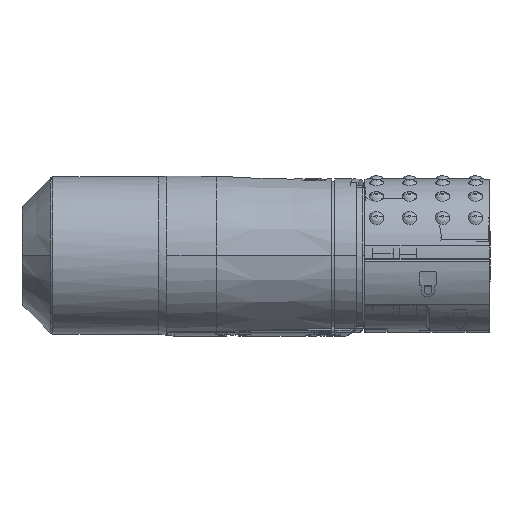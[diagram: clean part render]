
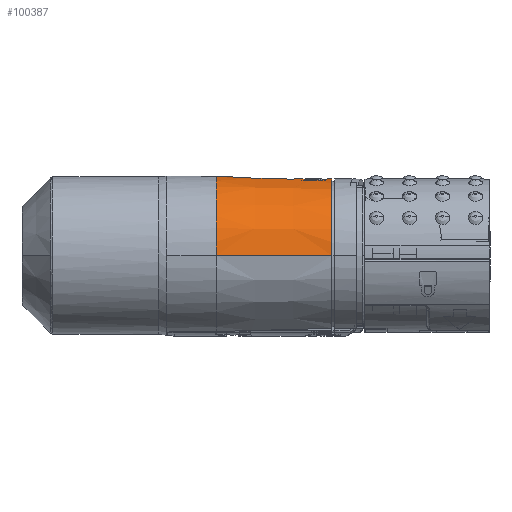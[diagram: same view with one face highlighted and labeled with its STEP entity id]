
A CAD part, top view. The second image highlights one B-rep face of the part: STEP entity #100387.
In plain terms, the highlighted conical face has half-angle 1.457 degrees and reference radius 10.86 mm.
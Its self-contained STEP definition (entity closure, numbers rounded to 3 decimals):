
#1828 = VECTOR ( 'NONE', #51550, 1000. ) ;
#2836 = CARTESIAN_POINT ( 'NONE',  ( 31.079, 10.457, 25.085 ) ) ;
#2971 = CARTESIAN_POINT ( 'NONE',  ( 30.504, 10.383, 22.933 ) ) ;
#3936 = CARTESIAN_POINT ( 'NONE',  ( 28.917, 10.34, 26.439 ) ) ;
#5432 = CIRCLE ( 'NONE', #57904, 10.86 ) ;
#6077 = CARTESIAN_POINT ( 'NONE',  ( 30.401, 10.373, 26.031 ) ) ;
#7933 = CARTESIAN_POINT ( 'NONE',  ( 27.583, 10.495, 23.21 ) ) ;
#8087 = DIRECTION ( 'NONE',  ( -1., 0., 0. ) ) ;
#8099 = CARTESIAN_POINT ( 'NONE',  ( 16., 0., 35.299 ) ) ;
#8695 = ORIENTED_EDGE ( 'NONE', *, *, #8720, .T. ) ;
#8720 = EDGE_CURVE ( 'NONE', #22382, #43309, #46329, .T. ) ;
#8937 = DIRECTION ( 'NONE',  ( -1., 0., 0. ) ) ;
#10113 = CARTESIAN_POINT ( 'NONE',  ( 27.962, 10.436, 22.849 ) ) ;
#13222 = CARTESIAN_POINT ( 'NONE',  ( 27.96, 10.436, 26.028 ) ) ;
#13771 = CARTESIAN_POINT ( 'NONE',  ( 28.293, 10.393, 26.236 ) ) ;
#18337 = CARTESIAN_POINT ( 'NONE',  ( 29.699, 10.332, 22.503 ) ) ;
#19297 = CARTESIAN_POINT ( 'NONE',  ( 31.182, 10.474, 24.439 ) ) ;
#19303 = VECTOR ( 'NONE', #87938, 1000. ) ;
#19437 = CARTESIAN_POINT ( 'NONE',  ( 31.169, 10.472, 24.178 ) ) ;
#20370 = CARTESIAN_POINT ( 'NONE',  ( 27.385, 10.534, 25.328 ) ) ;
#21112 = EDGE_CURVE ( 'NONE', #107816, #104990, #5432, .T. ) ;
#21567 = LINE ( 'NONE', #62672, #19303 ) ;
#21986 = CARTESIAN_POINT ( 'NONE',  ( 27.447, 10.522, 25.442 ) ) ;
#22382 = VERTEX_POINT ( 'NONE', #64732 ) ;
#23771 = EDGE_CURVE ( 'NONE', #43309, #22382, #107699, .T. ) ;
#26544 = VERTEX_POINT ( 'NONE', #50882 ) ;
#27623 = CARTESIAN_POINT ( 'NONE',  ( 29.826, 10.336, 22.542 ) ) ;
#28560 = EDGE_CURVE ( 'NONE', #26544, #80340, #58946, .T. ) ;
#32085 = CARTESIAN_POINT ( 'NONE',  ( 27.182, 10.576, 24.308 ) ) ;
#33324 = DIRECTION ( 'NONE',  ( 0., 0., -1. ) ) ;
#33617 = DIRECTION ( 'NONE',  ( 0., 0., -1. ) ) ;
#33923 = ORIENTED_EDGE ( 'NONE', *, *, #78736, .T. ) ;
#35335 = CARTESIAN_POINT ( 'NONE',  ( 29.442, 10.329, 22.452 ) ) ;
#35864 = CARTESIAN_POINT ( 'NONE',  ( 28.178, 10.407, 22.704 ) ) ;
#38448 = CARTESIAN_POINT ( 'NONE',  ( 27.675, 10.481, 25.761 ) ) ;
#38971 = CARTESIAN_POINT ( 'NONE',  ( 27.859, 10.451, 25.946 ) ) ;
#42986 = CARTESIAN_POINT ( 'NONE',  ( 30.929, 10.435, 23.432 ) ) ;
#43309 = VERTEX_POINT ( 'NONE', #82379 ) ;
#43425 = FACE_BOUND ( 'NONE', #82947, .T. ) ;
#43531 = CARTESIAN_POINT ( 'NONE',  ( 28.656, 10.357, 22.492 ) ) ;
#44483 = CARTESIAN_POINT ( 'NONE',  ( 31.169, 10.472, 24.703 ) ) ;
#44618 = CARTESIAN_POINT ( 'NONE',  ( 27.86, 10.451, 22.933 ) ) ;
#45060 = CARTESIAN_POINT ( 'NONE',  ( 16., 0., 13.579 ) ) ;
#45180 = CARTESIAN_POINT ( 'NONE',  ( 31.118, 10.464, 23.921 ) ) ;
#46128 = CARTESIAN_POINT ( 'NONE',  ( 30.78, 10.413, 25.67 ) ) ;
#46329 = B_SPLINE_CURVE_WITH_KNOTS ( 'NONE', 3,
 ( #19297, #52766, #44483, #77941, #2836, #79046, #46128, #105938, #6077, #80105, #97170, #103829, #88369, #88911, #54915, #3936, #64157, #13771, #87848, #13222, #38971, #38448, #97709, #21986, #20370, #55451, #87286, #70790 ),
 .UNSPECIFIED., .F., .F.,
 ( 4, 2, 2, 2, 2, 2, 2, 2, 2, 2, 2, 2, 2, 4 ),
 ( 0.005, 0.005, 0.005, 0.006, 0.006, 0.007, 0.007, 0.008, 0.008, 0.009, 0.009, 0.01, 0.01, 0.011 ),
 .UNSPECIFIED. ) ;
#49078 = CARTESIAN_POINT ( 'NONE',  ( 27.284, 10.554, 23.794 ) ) ;
#49595 = CARTESIAN_POINT ( 'NONE',  ( 27.195, 10.573, 24.178 ) ) ;
#50882 = CARTESIAN_POINT ( 'NONE',  ( 31.73, 0., 34.899 ) ) ;
#51550 = DIRECTION ( 'NONE',  ( -1., 0., 0.025 ) ) ;
#51793 = CARTESIAN_POINT ( 'NONE',  ( 30.401, 10.373, 22.849 ) ) ;
#52070 = CARTESIAN_POINT ( 'NONE',  ( 31.73, 0., 13.979 ) ) ;
#52766 = CARTESIAN_POINT ( 'NONE',  ( 31.182, 10.474, 24.57 ) ) ;
#52893 = CARTESIAN_POINT ( 'NONE',  ( 31.182, 10.474, 24.308 ) ) ;
#53406 = CARTESIAN_POINT ( 'NONE',  ( 28.916, 10.34, 22.44 ) ) ;
#53733 = DIRECTION ( 'NONE',  ( -1., 0., 0. ) ) ;
#54018 = EDGE_LOOP ( 'NONE', ( #56953, #71065, #33923, #104341 ) ) ;
#54248 = EDGE_CURVE ( 'NONE', #26544, #107816, #78941, .T. ) ;
#54915 = CARTESIAN_POINT ( 'NONE',  ( 29.309, 10.33, 26.44 ) ) ;
#55451 = CARTESIAN_POINT ( 'NONE',  ( 27.234, 10.564, 24.963 ) ) ;
#56953 = ORIENTED_EDGE ( 'NONE', *, *, #54248, .F. ) ;
#57080 = CONICAL_SURFACE ( 'NONE', #107957, 10.86, 0.025 ) ;
#57829 = CARTESIAN_POINT ( 'NONE',  ( 27.246, 10.562, 23.921 ) ) ;
#57904 = AXIS2_PLACEMENT_3D ( 'NONE', #79466, #53733, #80565 ) ;
#58946 = CIRCLE ( 'NONE', #80018, 10.46 ) ;
#61086 = CARTESIAN_POINT ( 'NONE',  ( 30.183, 10.355, 22.703 ) ) ;
#62672 = CARTESIAN_POINT ( 'NONE',  ( 16., 0., 13.579 ) ) ;
#64157 = CARTESIAN_POINT ( 'NONE',  ( 28.654, 10.357, 26.386 ) ) ;
#64732 = CARTESIAN_POINT ( 'NONE',  ( 31.182, 10.474, 24.439 ) ) ;
#67556 = FACE_OUTER_BOUND ( 'NONE', #54018, .T. ) ;
#69275 = CARTESIAN_POINT ( 'NONE',  ( 31.079, 10.457, 23.794 ) ) ;
#70790 = CARTESIAN_POINT ( 'NONE',  ( 27.182, 10.576, 24.439 ) ) ;
#71065 = ORIENTED_EDGE ( 'NONE', *, *, #28560, .T. ) ;
#73771 = CARTESIAN_POINT ( 'NONE',  ( 27.182, 10.576, 24.439 ) ) ;
#73922 = CARTESIAN_POINT ( 'NONE',  ( 31.73, 0., 24.439 ) ) ;
#77941 = CARTESIAN_POINT ( 'NONE',  ( 31.117, 10.463, 24.96 ) ) ;
#78088 = CARTESIAN_POINT ( 'NONE',  ( 30.068, 10.347, 22.642 ) ) ;
#78736 = EDGE_CURVE ( 'NONE', #80340, #104990, #21567, .T. ) ;
#78941 = LINE ( 'NONE', #95455, #1828 ) ;
#79046 = CARTESIAN_POINT ( 'NONE',  ( 30.928, 10.434, 25.449 ) ) ;
#79466 = CARTESIAN_POINT ( 'NONE',  ( 16., 0., 24.439 ) ) ;
#80018 = AXIS2_PLACEMENT_3D ( 'NONE', #73922, #8087, #33324 ) ;
#80105 = CARTESIAN_POINT ( 'NONE',  ( 30.183, 10.355, 26.175 ) ) ;
#80340 = VERTEX_POINT ( 'NONE', #52070 ) ;
#80565 = DIRECTION ( 'NONE',  ( 0., 0., 1. ) ) ;
#82379 = CARTESIAN_POINT ( 'NONE',  ( 27.182, 10.576, 24.439 ) ) ;
#82947 = EDGE_LOOP ( 'NONE', ( #86146, #8695 ) ) ;
#83045 = CARTESIAN_POINT ( 'NONE',  ( 27.435, 10.524, 23.432 ) ) ;
#85202 = CARTESIAN_POINT ( 'NONE',  ( 31.182, 10.474, 24.439 ) ) ;
#86146 = ORIENTED_EDGE ( 'NONE', *, *, #23771, .T. ) ;
#87286 = CARTESIAN_POINT ( 'NONE',  ( 27.182, 10.576, 24.703 ) ) ;
#87848 = CARTESIAN_POINT ( 'NONE',  ( 28.176, 10.407, 26.173 ) ) ;
#87938 = DIRECTION ( 'NONE',  ( -1., 0., -0.025 ) ) ;
#88369 = CARTESIAN_POINT ( 'NONE',  ( 29.699, 10.332, 26.376 ) ) ;
#88911 = CARTESIAN_POINT ( 'NONE',  ( 29.441, 10.329, 26.427 ) ) ;
#94625 = CARTESIAN_POINT ( 'NONE',  ( 30.78, 10.413, 23.209 ) ) ;
#95455 = CARTESIAN_POINT ( 'NONE',  ( 16., 0., 35.299 ) ) ;
#95713 = CARTESIAN_POINT ( 'NONE',  ( 28.293, 10.393, 22.643 ) ) ;
#97170 = CARTESIAN_POINT ( 'NONE',  ( 30.066, 10.347, 26.238 ) ) ;
#97709 = CARTESIAN_POINT ( 'NONE',  ( 27.591, 10.495, 25.659 ) ) ;
#100387 = ADVANCED_FACE ( 'NONE', ( #67556, #43425 ), #57080, .T. ) ;
#101122 = CARTESIAN_POINT ( 'NONE',  ( 16., 0., 24.439 ) ) ;
#102846 = CARTESIAN_POINT ( 'NONE',  ( 29.312, 10.33, 22.439 ) ) ;
#103829 = CARTESIAN_POINT ( 'NONE',  ( 29.824, 10.336, 26.338 ) ) ;
#104341 = ORIENTED_EDGE ( 'NONE', *, *, #21112, .F. ) ;
#104990 = VERTEX_POINT ( 'NONE', #45060 ) ;
#105938 = CARTESIAN_POINT ( 'NONE',  ( 30.501, 10.383, 25.948 ) ) ;
#107699 = B_SPLINE_CURVE_WITH_KNOTS ( 'NONE', 3,
 ( #73771, #32085, #49595, #57829, #49078, #83045, #7933, #44618, #10113, #35864, #95713, #43531, #53406, #102846, #35335, #18337, #27623, #78088, #61086, #51793, #2971, #94625, #42986, #69275, #45180, #19437, #52893, #85202 ),
 .UNSPECIFIED., .F., .F.,
 ( 4, 2, 2, 2, 2, 2, 2, 2, 2, 2, 2, 2, 2, 4 ),
 ( 0.011, 0.011, 0.012, 0.012, 0.013, 0.013, 0.014, 0.014, 0.015, 0.015, 0.015, 0.016, 0.017, 0.017 ),
 .UNSPECIFIED. ) ;
#107816 = VERTEX_POINT ( 'NONE', #8099 ) ;
#107957 = AXIS2_PLACEMENT_3D ( 'NONE', #101122, #8937, #33617 ) ;
